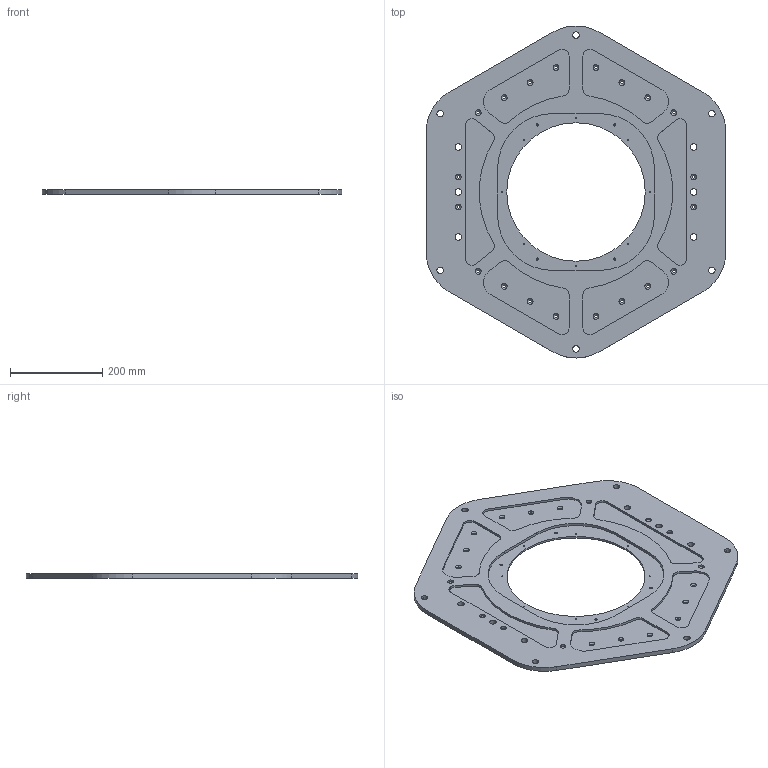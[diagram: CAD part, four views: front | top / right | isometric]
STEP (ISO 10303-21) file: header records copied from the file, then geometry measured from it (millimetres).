
FILE_DESCRIPTION((''),'2;1');
FILE_NAME('ISAT_741478_041','2025-11-20T10:39:30',('kukina_lv'),('Radar-mms'),'CREO PARAMETRIC BY PTC INC, 2018500','CREO PARAMETRIC BY PTC INC, 2018500','');
FILE_SCHEMA(('AUTOMOTIVE_DESIGN { 1 0 10303 214 1 1 1 1 }'));
Length unit declared in the file: millimetre
Products named in the file (1): ISAT_741478_041
Bounding box: 650 x 719.62 x 10 mm (x, y, z)
Volume: 2249606.8 mm3; surface area: 638542.9 mm2
Topology: 1 solids, 13 shells, 247 faces, 747 edges, 594 vertices
Faces by surface type: cylinder 170, cone 40, plane 37
Entity records: 13879 total; most frequent: DIRECTION 1667, CARTESIAN_POINT 1449, ORIENTED_EDGE 1276, PRESENTATION_STYLE_ASSIGNMENT 769, STYLED_ITEM 756, CURVE_STYLE 743, EDGE_CURVE 662, AXIS2_PLACEMENT_3D 644
